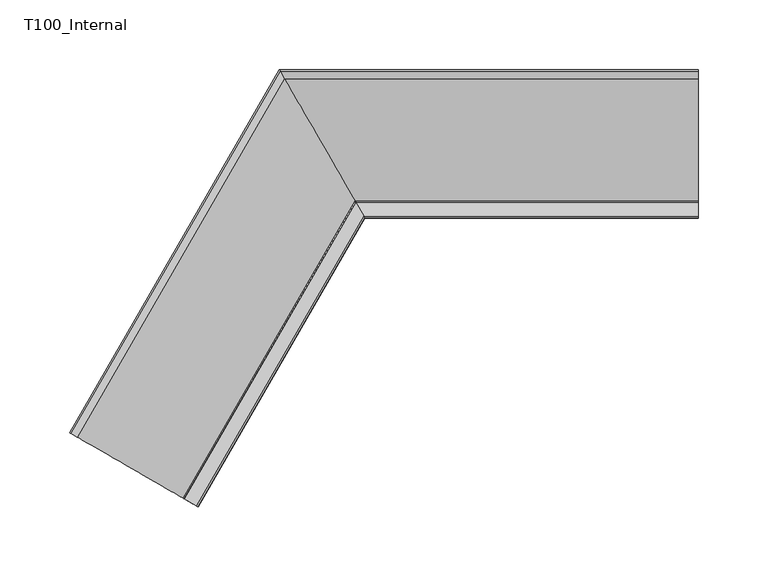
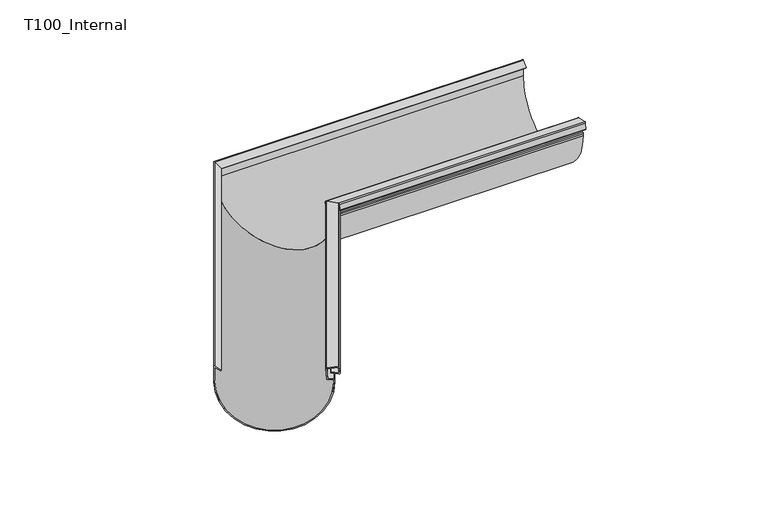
"""IFC4 building model written with IfcOpenShell, lengths in millimetres: proxy geometry, GROVIK_Gutter_Corner_Custom : T100_Internal."""

from ifc_helpers import new_model, si_unit, frame, origin, place, context, project, spatial, polyline, circle_curve, ellipse_curve, source, transform, mapped, element, save
from ifc_brep_helpers import plane_surface, cylinder_surface, revolved_surface, advanced_brep


def t100_internal_9bdcb73d(model_context):
    return source(origin(), model_context, "Body", "AdvancedBrep", [
        advanced_brep(
        [(-67.1399256, -307.6469074, -12.9222473), (-67.8816822, -307.218654, -3.1323306), (-59.2563879, -312.19847, -1.3761787), (-58.8076953, -312.4575228, -7.2981526), (-64.8339329, -308.9782729, -6.0711814), (-64.9692783, -308.9001312, -6.9575084), (-59.0541887, -312.3152098, -8.1618494), (-58.041075, -312.9001312, -7.0898859), (-58.4710624, -312.6518779, -1.4147892), (-59.4092714, -312.1102027, -0.5057502), (-67.9379567, -307.1861639, -2.242232), (-68.6503029, -306.7748907, -3.3141955), (-67.922716, -307.1949632, -12.9170968), (-67.1354651, -307.6494826, -13.8261357), (-62.6180368, -310.2576211, -14.2825008), (-62.6180368, -310.2576211, -16.3578028), (-149.2205771, -260.2576211, -16.3578028), (-149.2205771, -260.2576211, -1.3578028), (-145.1074107, -262.6323589, -5.3430859), (-144.6064073, -262.9216133, -4.6536459), (-149.2886521, -260.218318, -0.1169778), (-150.0, -259.8076211, -0.5), (-150.0, -259.8076211, -16.3578028), (-61.8386139, -310.7076211, -16.3578028), (-61.8386139, -310.7076211, -14.3741339), (-62.6291602, -310.251199, -13.3779392), (58.3049616, -100.7871557, -13.3779392), (55.2977846, -95.5785725, -12.9222473), (58.8319924, -101.7, -14.3741339), (58.8319924, -101.7, -16.3578028), (0.057735, 0.1, -16.3578028), (0.057735, 0.1, -0.5), (0.531967, -0.7213938, -0.1169778), (3.6534635, -6.1279844, -4.6536459), (3.3194613, -5.5494755, -5.3430859), (0.5773503, -0.8, -1.3578028), (0.5773503, -0.8, -16.3578028), (58.3123772, -100.8, -16.3578028), (58.3123772, -100.8, -14.2825008), (55.3007583, -95.583723, -13.8261357), (54.7759244, -94.6746841, -12.9170968), (54.2908664, -93.8345391, -3.3141955), (54.7657639, -94.6570856, -2.242232), (60.4515541, -104.5051631, -0.5057502), (61.0770268, -105.5885136, -1.4147892), (61.363685, -106.0850202, -7.0898859), (60.6882759, -104.9151773, -8.1618494), (56.7448829, -98.0850202, -6.9575084), (56.8351131, -98.2413035, -6.0711814), (60.8526048, -105.1998033, -7.2981526), (60.5534764, -104.6816977, -1.3761787), (54.8032802, -94.7220658, -3.1323306)],
        [
            (0, 1),
            (1, 2),
            (2, 3),
            (3, 4),
            (4, 5),
            (5, 6),
            (6, 7, circle_curve(frame((-58.9038049, -312.4020339, -7.1770416), z_axis=(-0.4999999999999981, -0.8660254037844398, 0.0), x_axis=(-0.8660254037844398, 0.4999999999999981, 0.0)), 1.0)),
            (7, 8),
            (8, 9, circle_curve(frame((-59.3337923, -312.1537806, -1.5019449), z_axis=(-0.4999999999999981, -0.8660254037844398, 0.0), x_axis=(-0.8660254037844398, 0.4999999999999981, 0.0)), 1.0)),
            (9, 10),
            (10, 11, circle_curve(frame((-67.787573, -307.272988, -3.2270397), z_axis=(-0.4999999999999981, -0.8660254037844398, 0.0), x_axis=(-0.8660254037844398, 0.4999999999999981, 0.0)), 1.0)),
            (11, 12),
            (12, 13, circle_curve(frame((-67.1354651, -307.6494826, -12.9170968), z_axis=(-0.4999999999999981, -0.8660254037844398, 0.0), x_axis=(-0.8660254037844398, 0.4999999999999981, 0.0)), 0.909039)),
            (13, 14),
            (14, 15),
            (15, 16, circle_curve(frame((-105.9193069, -285.2576211, -16.3578028), z_axis=(0.4999999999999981, 0.8660254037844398, 0.0), x_axis=(-0.8660254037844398, 0.4999999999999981, 0.0)), 50.0)),
            (16, 17),
            (17, 18),
            (18, 19),
            (19, 20),
            (20, 21, circle_curve(frame((-149.5669873, -260.0576211, -0.5), z_axis=(-0.4999999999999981, -0.8660254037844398, 0.0), x_axis=(-0.8660254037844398, 0.4999999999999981, 0.0)), 0.5)),
            (21, 22),
            (22, 23, circle_curve(frame((-105.9193069, -285.2576211, -16.3578028), z_axis=(-0.4999999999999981, -0.8660254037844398, 0.0), x_axis=(-0.8660254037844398, 0.4999999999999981, 0.0)), 50.9)),
            (23, 24),
            (24, 25, circle_curve(frame((-62.7046393, -310.2076211, -14.3741339), z_axis=(-0.4999999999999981, -0.8660254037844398, 0.0), x_axis=(-0.8660254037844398, 0.4999999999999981, 0.0)), 1.0)),
            (25, 0),
            (25, 26),
            (26, 27),
            (27, 0),
            (24, 28),
            (28, 26, ellipse_curve(frame((58.2546422, -100.7, -14.3741339), z_axis=(-0.8660254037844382, -0.500000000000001, 0.0), x_axis=(0.5000000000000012, -0.8660254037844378, 0.0)), 1.1547005, 1.0)),
            (23, 29),
            (29, 28),
            (22, 30),
            (30, 29, ellipse_curve(frame((29.4448637, -50.8, -16.3578028), z_axis=(-0.8660254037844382, -0.500000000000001, 0.0), x_axis=(0.5000000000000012, -0.8660254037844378, 0.0)), 58.7742574, 50.9)),
            (21, 31),
            (31, 30),
            (20, 32),
            (32, 31, ellipse_curve(frame((0.3464102, -0.4, -0.5), z_axis=(-0.8660254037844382, -0.500000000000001, 0.0), x_axis=(0.5000000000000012, -0.8660254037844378, 0.0)), 0.5773503, 0.5)),
            (19, 33),
            (33, 32),
            (18, 34),
            (34, 33),
            (17, 35),
            (35, 34),
            (16, 36),
            (36, 35),
            (15, 37),
            (37, 36, ellipse_curve(frame((29.4448637, -50.8, -16.3578028), z_axis=(0.8660254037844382, 0.500000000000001, 0.0), x_axis=(-0.5000000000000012, 0.8660254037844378, 0.0)), 57.7350269, 50.0)),
            (14, 38),
            (38, 37),
            (13, 39),
            (39, 38),
            (12, 40),
            (40, 39, ellipse_curve(frame((55.3007583, -95.583723, -12.9170968), z_axis=(-0.8660254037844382, -0.500000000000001, 0.0), x_axis=(0.5000000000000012, -0.8660254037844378, 0.0)), 1.0496678, 0.909039)),
            (11, 41),
            (41, 40),
            (10, 42),
            (42, 41, ellipse_curve(frame((54.8660197, -94.8307338, -3.2270397), z_axis=(-0.8660254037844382, -0.500000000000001, 0.0), x_axis=(0.5000000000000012, -0.8660254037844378, 0.0)), 1.1547005, 1.0)),
            (9, 43),
            (43, 42),
            (8, 44),
            (44, 43, ellipse_curve(frame((60.5018735, -104.5923189, -1.5019449), z_axis=(-0.8660254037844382, -0.500000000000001, 0.0), x_axis=(0.5000000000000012, -0.8660254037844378, 0.0)), 1.1547005, 1.0)),
            (7, 45),
            (45, 44),
            (6, 46),
            (46, 45, ellipse_curve(frame((60.7885317, -105.0888255, -7.1770416), z_axis=(-0.8660254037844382, -0.500000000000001, 0.0), x_axis=(0.5000000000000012, -0.8660254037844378, 0.0)), 1.1547005, 1.0)),
            (5, 47),
            (47, 46),
            (4, 48),
            (48, 47),
            (3, 49),
            (49, 48),
            (2, 50),
            (50, 49),
            (1, 51),
            (51, 50),
            (27, 51),
        ],
        [
            plane_surface(frame((-150.0, -259.8076211, 0.0), z_axis=(-0.4999999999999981, -0.8660254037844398, 0.0), x_axis=(0.0, 0.0, 1.0))),
            plane_surface(frame((-67.1399256, -307.6469074, -12.9222473), z_axis=(0.07547908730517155, -0.043577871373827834, 0.996194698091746), x_axis=(0.4999999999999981, 0.8660254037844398, 0.0))),
            cylinder_surface(frame((-62.7046393, -310.2076211, -14.3741339), z_axis=(-0.4999999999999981, -0.8660254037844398, 0.0), x_axis=(-0.8660254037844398, 0.4999999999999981, 0.0)), 1.0),
            plane_surface(frame((-61.8386139, -310.7076211, -14.3741339), z_axis=(0.8660254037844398, -0.4999999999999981, 0.0), x_axis=(0.4999999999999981, 0.8660254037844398, 0.0))),
            cylinder_surface(frame((-105.9193069, -285.2576211, -16.3578028), z_axis=(-0.4999999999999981, -0.8660254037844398, 0.0), x_axis=(-0.8660254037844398, 0.4999999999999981, 0.0)), 50.9),
            plane_surface(frame((-150.0, -259.8076211, -16.3578028), z_axis=(-0.8660254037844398, 0.4999999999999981, 0.0), x_axis=(0.4999999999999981, 0.8660254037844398, 0.0))),
            cylinder_surface(frame((-149.5669873, -260.0576211, -0.5), z_axis=(-0.4999999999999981, -0.8660254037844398, 0.0), x_axis=(-0.8660254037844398, 0.4999999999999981, 0.0)), 0.5),
            plane_surface(frame((-149.2886521, -260.218318, -0.1169778), z_axis=(0.5566703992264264, -0.32139380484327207, 0.7660444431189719), x_axis=(0.4999999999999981, 0.8660254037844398, 0.0))),
            plane_surface(frame((-144.6064073, -262.9216133, -4.6536459), z_axis=(0.6634139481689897, -0.38302222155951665, -0.6427876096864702), x_axis=(0.4999999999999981, 0.8660254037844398, 0.0))),
            plane_surface(frame((-145.1074107, -262.6323589, -5.3430859), z_axis=(-0.5566703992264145, 0.3213938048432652, -0.7660444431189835), x_axis=(0.4999999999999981, 0.8660254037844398, 0.0))),
            plane_surface(frame((-149.2205771, -260.2576211, -1.3578028), z_axis=(0.8660254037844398, -0.4999999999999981, 0.0), x_axis=(0.4999999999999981, 0.8660254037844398, 0.0))),
            revolved_surface(polyline([(0.5773502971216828, -0.799999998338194, -16.3578028), (-149.22057711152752, -260.2576211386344, -16.3578028)]), (-105.9193069, -285.2576211, -16.3578028), (0.4999999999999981, 0.8660254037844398, 0.0)),
            plane_surface(frame((-62.6180368, -310.2576211, -16.3578028), z_axis=(-0.8660254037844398, 0.4999999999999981, 0.0), x_axis=(0.4999999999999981, 0.8660254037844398, 0.0))),
            plane_surface(frame((-62.6180368, -310.2576211, -14.2825008), z_axis=(-0.0754790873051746, 0.04357787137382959, -0.9961946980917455), x_axis=(0.4999999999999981, 0.8660254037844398, 0.0))),
            cylinder_surface(frame((-67.1354651, -307.6494826, -12.9170968), z_axis=(-0.4999999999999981, -0.8660254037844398, 0.0), x_axis=(-0.8660254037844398, 0.4999999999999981, 0.0)), 0.909039),
            plane_surface(frame((-67.922716, -307.1949632, -12.9170968), z_axis=(-0.862729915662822, 0.49809734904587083, -0.08715574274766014), x_axis=(0.4999999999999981, 0.8660254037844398, 0.0))),
            cylinder_surface(frame((-67.787573, -307.272988, -3.2270397), z_axis=(-0.4999999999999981, -0.8660254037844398, 0.0), x_axis=(-0.8660254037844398, 0.4999999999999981, 0.0)), 1.0),
            plane_surface(frame((-67.9379567, -307.1861639, -2.242232), z_axis=(-0.15038373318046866, 0.08682408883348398, 0.9848077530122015), x_axis=(0.4999999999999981, 0.8660254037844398, 0.0))),
            cylinder_surface(frame((-59.3337923, -312.1537806, -1.5019449), z_axis=(-0.4999999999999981, -0.8660254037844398, 0.0), x_axis=(-0.8660254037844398, 0.4999999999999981, 0.0)), 1.0),
            plane_surface(frame((-58.4710624, -312.6518779, -1.4147892), z_axis=(0.8627299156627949, -0.4980973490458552, 0.08715574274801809), x_axis=(0.4999999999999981, 0.8660254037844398, 0.0))),
            cylinder_surface(frame((-58.9038049, -312.4020339, -7.1770416), z_axis=(-0.4999999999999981, -0.8660254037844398, 0.0), x_axis=(-0.8660254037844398, 0.4999999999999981, 0.0)), 1.0),
            plane_surface(frame((-59.0541887, -312.3152098, -8.1618494), z_axis=(-0.15038373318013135, 0.08682408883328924, -0.9848077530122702), x_axis=(0.4999999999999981, 0.8660254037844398, 0.0))),
            plane_surface(frame((-64.9692783, -308.9001312, -6.9575084), z_axis=(-0.8528685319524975, 0.4924038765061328, 0.17364817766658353), x_axis=(0.4999999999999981, 0.8660254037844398, 0.0))),
            plane_surface(frame((-64.8339329, -308.9782729, -6.0711814), z_axis=(0.150383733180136, -0.08682408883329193, 0.9848077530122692), x_axis=(0.4999999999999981, 0.8660254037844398, 0.0))),
            plane_surface(frame((-58.8076953, -312.4575228, -7.2981526), z_axis=(-0.8627299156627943, 0.4980973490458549, -0.0871557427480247), x_axis=(0.4999999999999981, 0.8660254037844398, 0.0))),
            plane_surface(frame((-59.2563879, -312.19847, -1.3761787), z_axis=(0.15038373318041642, -0.08682408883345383, -0.9848077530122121), x_axis=(0.4999999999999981, 0.8660254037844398, 0.0))),
            plane_surface(frame((-67.8816822, -307.218654, -3.1323306), z_axis=(0.8627299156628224, -0.4980973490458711, 0.08715574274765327), x_axis=(0.4999999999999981, 0.8660254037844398, 0.0))),
            plane_surface(frame((61.4878037, -106.3, 250.0), z_axis=(0.8660254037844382, 0.500000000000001, 0.0), x_axis=(0.0, 0.0, -1.0))),
        ],
        [
            (0, [[1, 2, 3, 4, 5, 6, 7, 8, 9, 10, 11, 12, 13, 14, 15, 16, 17, 18, 19, 20, 21, 22, 23, 24, 25, 26]]),
            (1, [[27, 28, 29, -26]]),
            (2, [[30, 31, -27, -25]]),
            (3, [[32, 33, -30, -24]]),
            (4, [[34, 35, -32, -23]]),
            (5, [[36, 37, -34, -22]]),
            (6, [[38, 39, -36, -21]]),
            (7, [[40, 41, -38, -20]]),
            (8, [[42, 43, -40, -19]]),
            (9, [[44, 45, -42, -18]]),
            (10, [[46, 47, -44, -17]]),
            (11, [[48, 49, -46, -16]]),
            (12, [[50, 51, -48, -15]]),
            (13, [[52, 53, -50, -14]]),
            (14, [[54, 55, -52, -13]]),
            (15, [[56, 57, -54, -12]]),
            (16, [[58, 59, -56, -11]]),
            (17, [[60, 61, -58, -10]]),
            (18, [[62, 63, -60, -9]]),
            (19, [[64, 65, -62, -8]]),
            (20, [[66, 67, -64, -7]]),
            (21, [[68, 69, -66, -6]]),
            (22, [[70, 71, -68, -5]]),
            (23, [[72, 73, -70, -4]]),
            (24, [[74, 75, -72, -3]]),
            (25, [[76, 77, -74, -2]]),
            (26, [[-29, 78, -76, -1]]),
            (27, [[-31, -33, -35, -37, -39, -41, -43, -45, -47, -49, -51, -53, -55, -57, -59, -61, -63, -65, -67, -69, -71, -73, -75, -77, -78, -28]]),
        ],
    ),
        advanced_brep(
        [(300.0, -95.6785725, -12.9222473), (300.0, -100.8871557, -13.3779392), (300.0, -101.8, -14.3741339), (300.0, -101.8, -16.3578028), (300.0, 0.0, -16.3578028), (300.0, 0.0, -0.5), (300.0, -0.8213938, -0.1169778), (300.0, -6.2279844, -4.6536459), (300.0, -5.6494755, -5.3430859), (300.0, -0.9, -1.3578028), (300.0, -0.9, -16.3578028), (300.0, -100.9, -16.3578028), (300.0, -100.9, -14.2825008), (300.0, -95.683723, -13.8261357), (300.0, -94.7746841, -12.9170968), (300.0, -93.9345391, -3.3141955), (300.0, -94.7570856, -2.242232), (300.0, -104.6051631, -0.5057502), (300.0, -105.6885136, -1.4147892), (300.0, -106.1850202, -7.0898859), (300.0, -105.0151773, -8.1618494), (300.0, -98.1850202, -6.9575084), (300.0, -98.3413035, -6.0711814), (300.0, -105.2998033, -7.2981526), (300.0, -104.7816977, -1.3761787), (300.0, -94.8220658, -3.1323306), (55.1245795, -95.6785725, -12.9222473), (58.1317565, -100.8871557, -13.3779392), (58.6587873, -101.8, -14.3741339), (58.6587873, -101.8, -16.3578028), (-0.1154701, 0.0, -16.3578028), (-0.1154701, 0.0, -0.5), (0.3587619, -0.8213938, -0.1169778), (3.4802584, -6.2279844, -4.6536459), (3.1462562, -5.6494755, -5.3430859), (0.4041452, -0.9, -1.3578028), (0.4041452, -0.9, -16.3578028), (58.1391721, -100.9, -16.3578028), (58.1391721, -100.9, -14.2825008), (55.1275532, -95.683723, -13.8261357), (54.6027193, -94.7746841, -12.9170968), (54.1176614, -93.9345391, -3.3141955), (54.5925588, -94.7570856, -2.242232), (60.278349, -104.6051631, -0.5057502), (60.9038217, -105.6885136, -1.4147892), (61.1904799, -106.1850202, -7.0898859), (60.5150708, -105.0151773, -8.1618494), (56.5716778, -98.1850202, -6.9575084), (56.661908, -98.3413035, -6.0711814), (60.6793997, -105.2998033, -7.2981526), (60.3802713, -104.7816977, -1.3761787), (54.6300752, -94.8220658, -3.1323306)],
        [
            (0, 1),
            (1, 2, circle_curve(frame((300.0, -100.8, -14.3741339), z_axis=(1.0, 0.0, 0.0), x_axis=(0.0, 1.0, 0.0)), 1.0)),
            (2, 3),
            (3, 4, circle_curve(frame((300.0, -50.9, -16.3578028), z_axis=(1.0, 0.0, 0.0), x_axis=(0.0, 1.0, 0.0)), 50.9)),
            (4, 5),
            (5, 6, circle_curve(frame((300.0, -0.5, -0.5), z_axis=(1.0, 0.0, 0.0), x_axis=(0.0, 1.0, 0.0)), 0.5)),
            (6, 7),
            (7, 8),
            (8, 9),
            (9, 10),
            (10, 11, circle_curve(frame((300.0, -50.9, -16.3578028), z_axis=(-1.0, 0.0, 0.0), x_axis=(0.0, 1.0, 0.0)), 50.0)),
            (11, 12),
            (12, 13),
            (13, 14, circle_curve(frame((300.0, -95.683723, -12.9170968), z_axis=(1.0, 0.0, 0.0), x_axis=(0.0, 1.0, 0.0)), 0.909039)),
            (14, 15),
            (15, 16, circle_curve(frame((300.0, -94.9307338, -3.2270397), z_axis=(1.0, 0.0, 0.0), x_axis=(0.0, 1.0, 0.0)), 1.0)),
            (16, 17),
            (17, 18, circle_curve(frame((300.0, -104.6923189, -1.5019449), z_axis=(1.0, 0.0, 0.0), x_axis=(0.0, 1.0, 0.0)), 1.0)),
            (18, 19),
            (19, 20, circle_curve(frame((300.0, -105.1888255, -7.1770416), z_axis=(1.0, 0.0, 0.0), x_axis=(0.0, 1.0, 0.0)), 1.0)),
            (20, 21),
            (21, 22),
            (22, 23),
            (23, 24),
            (24, 25),
            (25, 0),
            (0, 26),
            (26, 27),
            (27, 1),
            (27, 28, ellipse_curve(frame((58.0814371, -100.8, -14.3741339), z_axis=(0.8660254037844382, 0.500000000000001, 0.0), x_axis=(0.5000000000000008, -0.8660254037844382, 0.0)), 1.1547005, 1.0)),
            (28, 2),
            (28, 29),
            (29, 3),
            (29, 30, ellipse_curve(frame((29.2716586, -50.9, -16.3578028), z_axis=(0.8660254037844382, 0.500000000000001, 0.0), x_axis=(0.5000000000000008, -0.8660254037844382, 0.0)), 58.7742574, 50.9)),
            (30, 4),
            (30, 31),
            (31, 5),
            (31, 32, ellipse_curve(frame((0.1732051, -0.5, -0.5), z_axis=(0.8660254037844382, 0.500000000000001, 0.0), x_axis=(0.5000000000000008, -0.8660254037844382, 0.0)), 0.5773503, 0.5)),
            (32, 6),
            (32, 33),
            (33, 7),
            (33, 34),
            (34, 8),
            (34, 35),
            (35, 9),
            (35, 36),
            (36, 10),
            (36, 37, ellipse_curve(frame((29.2716586, -50.9, -16.3578028), z_axis=(-0.8660254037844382, -0.500000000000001, 0.0), x_axis=(-0.5000000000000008, 0.8660254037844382, 0.0)), 57.7350269, 50.0)),
            (37, 11),
            (37, 38),
            (38, 12),
            (38, 39),
            (39, 13),
            (39, 40, ellipse_curve(frame((55.1275532, -95.683723, -12.9170968), z_axis=(0.8660254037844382, 0.500000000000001, 0.0), x_axis=(0.5000000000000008, -0.8660254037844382, 0.0)), 1.0496678, 0.909039)),
            (40, 14),
            (40, 41),
            (41, 15),
            (41, 42, ellipse_curve(frame((54.6928146, -94.9307338, -3.2270397), z_axis=(0.8660254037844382, 0.500000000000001, 0.0), x_axis=(0.5000000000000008, -0.8660254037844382, 0.0)), 1.1547005, 1.0)),
            (42, 16),
            (42, 43),
            (43, 17),
            (43, 44, ellipse_curve(frame((60.3286684, -104.6923189, -1.5019449), z_axis=(0.8660254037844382, 0.500000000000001, 0.0), x_axis=(0.5000000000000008, -0.8660254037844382, 0.0)), 1.1547005, 1.0)),
            (44, 18),
            (44, 45),
            (45, 19),
            (45, 46, ellipse_curve(frame((60.6153267, -105.1888255, -7.1770416), z_axis=(0.8660254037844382, 0.500000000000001, 0.0), x_axis=(0.5000000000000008, -0.8660254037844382, 0.0)), 1.1547005, 1.0)),
            (46, 20),
            (46, 47),
            (47, 21),
            (47, 48),
            (48, 22),
            (48, 49),
            (49, 23),
            (49, 50),
            (50, 24),
            (50, 51),
            (51, 25),
            (51, 26),
        ],
        [
            plane_surface(frame((300.0, 0.0, 0.0), z_axis=(1.0, 0.0, 0.0), x_axis=(0.0, 0.0, 1.0))),
            plane_surface(frame((300.0, -95.6785725, -12.9222473), z_axis=(0.0, -0.087155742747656, 0.9961946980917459), x_axis=(-1.0, 0.0, 0.0))),
            cylinder_surface(frame((300.0, -100.8, -14.3741339), z_axis=(1.0, 0.0, 0.0), x_axis=(0.0, 1.0, 0.0)), 1.0),
            plane_surface(frame((300.0, -101.8, -14.3741339), z_axis=(0.0, -1.0, 0.0), x_axis=(-1.0, 0.0, 0.0))),
            cylinder_surface(frame((300.0, -50.9, -16.3578028), z_axis=(1.0, 0.0, 0.0), x_axis=(0.0, 1.0, 0.0)), 50.9),
            plane_surface(frame((300.0, 0.0, -16.3578028), z_axis=(0.0, 1.0, 0.0), x_axis=(-1.0, 0.0, 0.0))),
            cylinder_surface(frame((300.0, -0.5, -0.5), z_axis=(1.0, 0.0, 0.0), x_axis=(0.0, 1.0, 0.0)), 0.5),
            plane_surface(frame((300.0, -0.8213938, -0.1169778), z_axis=(0.0, -0.6427876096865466, 0.7660444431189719), x_axis=(-1.0, 0.0, 0.0))),
            plane_surface(frame((300.0, -6.2279844, -4.6536459), z_axis=(0.0, -0.7660444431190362, -0.6427876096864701), x_axis=(-1.0, 0.0, 0.0))),
            plane_surface(frame((300.0, -5.6494755, -5.3430859), z_axis=(0.0, 0.6427876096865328, -0.7660444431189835), x_axis=(-1.0, 0.0, 0.0))),
            plane_surface(frame((300.0, -0.9, -1.3578028), z_axis=(0.0, -1.0, 0.0), x_axis=(-1.0, 0.0, 0.0))),
            revolved_surface(polyline([(0.40414514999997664, -0.8999999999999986, -16.3578028), (300.0, -0.8999999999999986, -16.3578028)]), (300.0, -50.9, -16.3578028), (-1.0, 0.0, 0.0)),
            plane_surface(frame((300.0, -100.9, -16.3578028), z_axis=(0.0, 1.0, 0.0), x_axis=(-1.0, 0.0, 0.0))),
            plane_surface(frame((300.0, -100.9, -14.2825008), z_axis=(0.0, 0.08715574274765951, -0.9961946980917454), x_axis=(-1.0, 0.0, 0.0))),
            cylinder_surface(frame((300.0, -95.683723, -12.9170968), z_axis=(1.0, 0.0, 0.0), x_axis=(0.0, 1.0, 0.0)), 0.909039),
            plane_surface(frame((300.0, -94.7746841, -12.9170968), z_axis=(0.0, 0.9961946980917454, -0.08715574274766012), x_axis=(-1.0, 0.0, 0.0))),
            cylinder_surface(frame((300.0, -94.9307338, -3.2270397), z_axis=(1.0, 0.0, 0.0), x_axis=(0.0, 1.0, 0.0)), 1.0),
            plane_surface(frame((300.0, -94.7570856, -2.242232), z_axis=(0.0, 0.17364817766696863, 0.9848077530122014), x_axis=(-1.0, 0.0, 0.0))),
            cylinder_surface(frame((300.0, -104.6923189, -1.5019449), z_axis=(1.0, 0.0, 0.0), x_axis=(0.0, 1.0, 0.0)), 1.0),
            plane_surface(frame((300.0, -105.6885136, -1.4147892), z_axis=(0.0, -0.9961946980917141, 0.08715574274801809), x_axis=(-1.0, 0.0, 0.0))),
            cylinder_surface(frame((300.0, -105.1888255, -7.1770416), z_axis=(1.0, 0.0, 0.0), x_axis=(0.0, 1.0, 0.0)), 1.0),
            plane_surface(frame((300.0, -105.0151773, -8.1618494), z_axis=(0.0, 0.17364817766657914, -0.9848077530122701), x_axis=(-1.0, 0.0, 0.0))),
            plane_surface(frame((300.0, -98.1850202, -6.9575084), z_axis=(0.0, 0.9848077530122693, 0.17364817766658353), x_axis=(-1.0, 0.0, 0.0))),
            plane_surface(frame((300.0, -98.3413035, -6.0711814), z_axis=(0.0, -0.17364817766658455, 0.9848077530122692), x_axis=(-1.0, 0.0, 0.0))),
            plane_surface(frame((300.0, -105.2998033, -7.2981526), z_axis=(0.0, 0.9961946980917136, -0.0871557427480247), x_axis=(-1.0, 0.0, 0.0))),
            plane_surface(frame((300.0, -104.7816977, -1.3761787), z_axis=(0.0, -0.17364817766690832, -0.984807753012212), x_axis=(-1.0, 0.0, 0.0))),
            plane_surface(frame((300.0, -94.8220658, -3.1323306), z_axis=(0.0, -0.996194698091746, 0.08715574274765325), x_axis=(-1.0, 0.0, 0.0))),
            plane_surface(frame((61.3145986, -106.4, 250.0), z_axis=(-0.8660254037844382, -0.500000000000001, 0.0), x_axis=(0.0, 0.0, -1.0))),
        ],
        [
            (0, [[1, 2, 3, 4, 5, 6, 7, 8, 9, 10, 11, 12, 13, 14, 15, 16, 17, 18, 19, 20, 21, 22, 23, 24, 25, 26]]),
            (1, [[-1, 27, 28, 29]]),
            (2, [[-2, -29, 30, 31]]),
            (3, [[-3, -31, 32, 33]]),
            (4, [[-4, -33, 34, 35]]),
            (5, [[-5, -35, 36, 37]]),
            (6, [[-6, -37, 38, 39]]),
            (7, [[-7, -39, 40, 41]]),
            (8, [[-8, -41, 42, 43]]),
            (9, [[-9, -43, 44, 45]]),
            (10, [[-10, -45, 46, 47]]),
            (11, [[-11, -47, 48, 49]]),
            (12, [[-12, -49, 50, 51]]),
            (13, [[-13, -51, 52, 53]]),
            (14, [[-14, -53, 54, 55]]),
            (15, [[-15, -55, 56, 57]]),
            (16, [[-16, -57, 58, 59]]),
            (17, [[-17, -59, 60, 61]]),
            (18, [[-18, -61, 62, 63]]),
            (19, [[-19, -63, 64, 65]]),
            (20, [[-20, -65, 66, 67]]),
            (21, [[-21, -67, 68, 69]]),
            (22, [[-22, -69, 70, 71]]),
            (23, [[-23, -71, 72, 73]]),
            (24, [[-24, -73, 74, 75]]),
            (25, [[-25, -75, 76, 77]]),
            (26, [[-26, -77, 78, -27]]),
            (27, [[-28, -78, -76, -74, -72, -70, -68, -66, -64, -62, -60, -58, -56, -54, -52, -50, -48, -46, -44, -42, -40, -38, -36, -34, -32, -30]]),
        ],
    ),
    ])


if __name__ == "__main__":
    model = new_model("IFC4")
    model_context = context("Model", 3, world=origin())
    ifc_project = project(units=[si_unit("LENGTHUNIT", "METRE", prefix="MILLI")], contexts=[model_context])
    site = spatial("IfcSite", under=ifc_project)
    building = spatial("IfcBuilding", under=site)
    placement = place(None, origin())
    t100_internal_shape = t100_internal_9bdcb73d(model_context)
    element("IfcBuildingElementProxy", 1, Name="GROVIK_Gutter_Corner_Custom : T100_Internal", ObjectType="GROVIK_Gutter_Corner_Custom : T100_Internal", at=placement, inside=building, context=model_context, shape_type="MappedRepresentation", body=[
        mapped(t100_internal_shape, transform((0.0, 0.0, 0.0), x_axis=(1.0, 0.0, 0.0), y_axis=(0.0, 1.0, 0.0), z_axis=(0.0, 0.0, 1.0))),
    ])
    save(model, "model.ifc")
